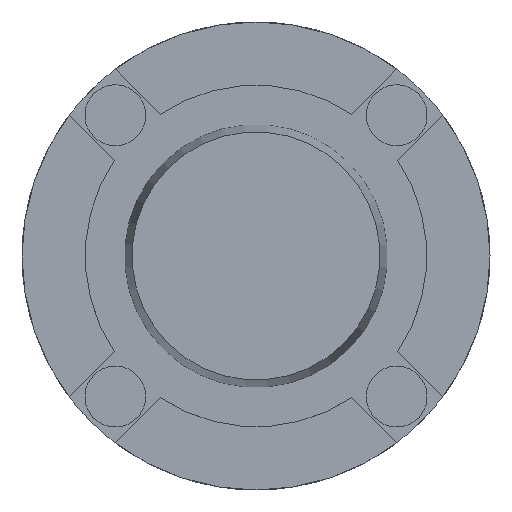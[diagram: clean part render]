
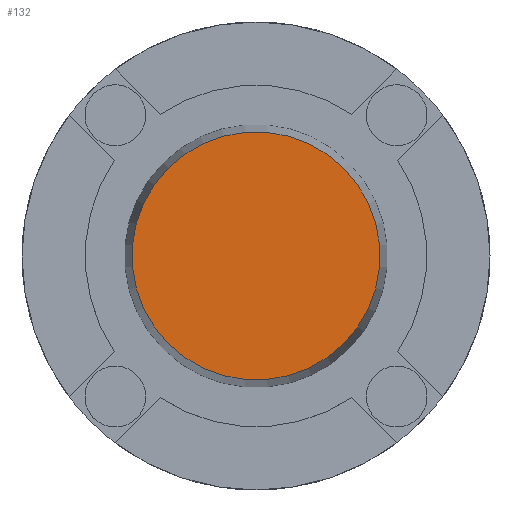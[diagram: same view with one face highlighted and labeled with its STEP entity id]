
A CAD part, top view. The second image highlights one B-rep face of the part: STEP entity #132.
In plain terms, the highlighted planar face has unit normal (0, 0, 1) as drawn and (1, 0, 0) by its records, which use the part's own axes.
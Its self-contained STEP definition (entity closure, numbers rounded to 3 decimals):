
#132=ADVANCED_FACE('',(#167),#684,.T.);
#167=FACE_OUTER_BOUND('',#207,.T.);
#207=EDGE_LOOP('',(#308,#309));
#308=ORIENTED_EDGE('',*,*,#449,.F.);
#309=ORIENTED_EDGE('',*,*,#452,.F.);
#449=EDGE_CURVE('',#645,#647,#500,.T.);
#452=EDGE_CURVE('',#647,#645,#502,.T.);
#500=TRIMMED_CURVE($,#540,(#1302),(#1303),.T.,.CARTESIAN.);
#502=TRIMMED_CURVE($,#542,(#1310),(#1311),.T.,.CARTESIAN.);
#540=CIRCLE('',#925,26.501);
#542=CIRCLE('',#927,26.501);
#645=VERTEX_POINT('',#1164);
#647=VERTEX_POINT('',#1166);
#684=PLANE('',#885);
#885=AXIS2_PLACEMENT_3D('',#1093,#964,$);
#925=AXIS2_PLACEMENT_3D($,#1301,#1022,#1023);
#927=AXIS2_PLACEMENT_3D($,#1309,#1026,#1027);
#964=DIRECTION('',(1.,0.,0.));
#1022=DIRECTION('',(-1.,0.,0.));
#1023=DIRECTION('',(0.,0.,1.));
#1026=DIRECTION('',(-1.,0.,0.));
#1027=DIRECTION('',(0.,0.,-1.));
#1093=CARTESIAN_POINT('',(14.,-31.861,-31.861));
#1164=CARTESIAN_POINT('',(14.,0.,26.501));
#1166=CARTESIAN_POINT('',(14.,0.,-26.501));
#1301=CARTESIAN_POINT('',(14.,0.,0.));
#1302=CARTESIAN_POINT('',(14.,0.,26.501));
#1303=CARTESIAN_POINT('',(14.,0.,-26.501));
#1309=CARTESIAN_POINT('',(14.,0.,0.));
#1310=CARTESIAN_POINT('',(14.,0.,-26.501));
#1311=CARTESIAN_POINT('',(14.,0.,26.501));
